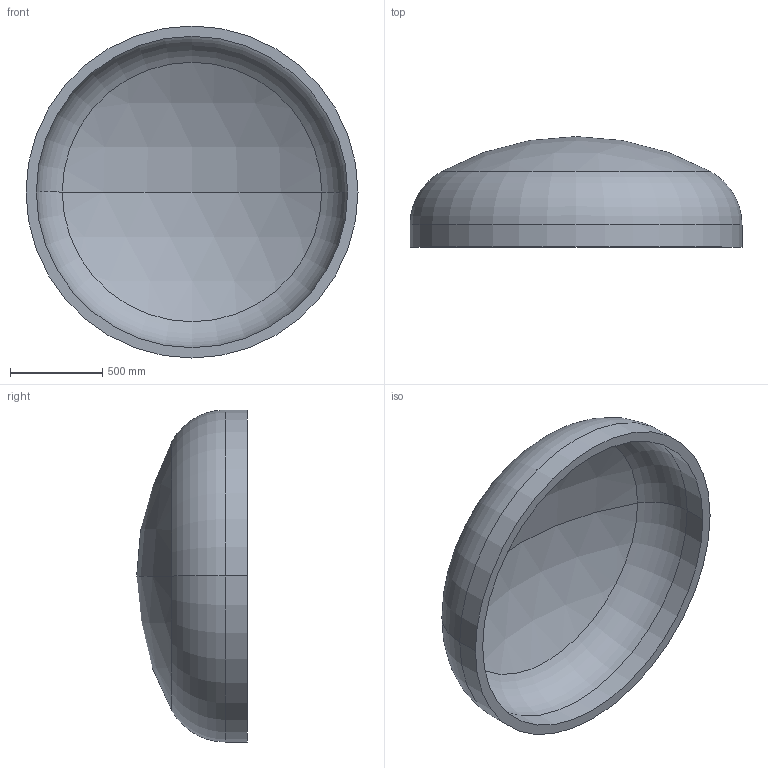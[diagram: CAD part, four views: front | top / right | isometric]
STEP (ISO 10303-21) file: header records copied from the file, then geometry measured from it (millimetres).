
FILE_DESCRIPTION (( 'STEP AP203' ), '1' );
FILE_NAME ('DIN 28013 Korbbogenform_-_Boden DIN 28013 - 1800 x 120 - I - s=56.step', '2016-07-01T12:35:12', ( '' ), ( '' ), 'SwSTEP 2.0', 'SolidWorks 2013', '' );
FILE_SCHEMA (( 'CONFIG_CONTROL_DESIGN' ));
Length unit declared in the file: millimetre
Products named in the file (1): DIN 28013 Korbbogenform_-_Boden DIN 28013 - 1800 x 120 - I - s=56
Bounding box: 1800 x 599.41 x 1800 mm (x, y, z)
Volume: 226026395.3 mm3; surface area: 8385757.4 mm2
Topology: 1 solids, 1 shells, 13 faces, 24 edges, 14 vertices
Faces by surface type: torus 4, cylinder 4, sphere 4, plane 1
Entity records: 407 total; most frequent: DIRECTION 72, CARTESIAN_POINT 52, ORIENTED_EDGE 48, AXIS2_PLACEMENT_3D 34, EDGE_CURVE 24, CIRCLE 20, EDGE_LOOP 14, VERTEX_POINT 14
